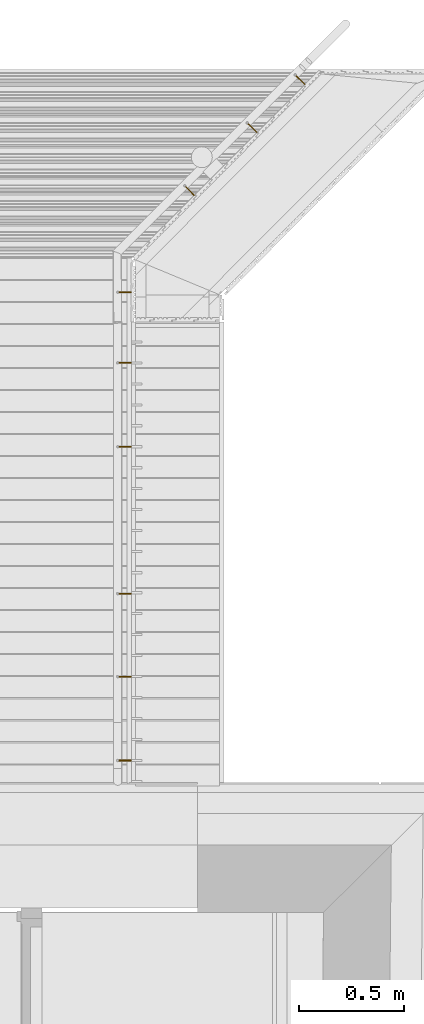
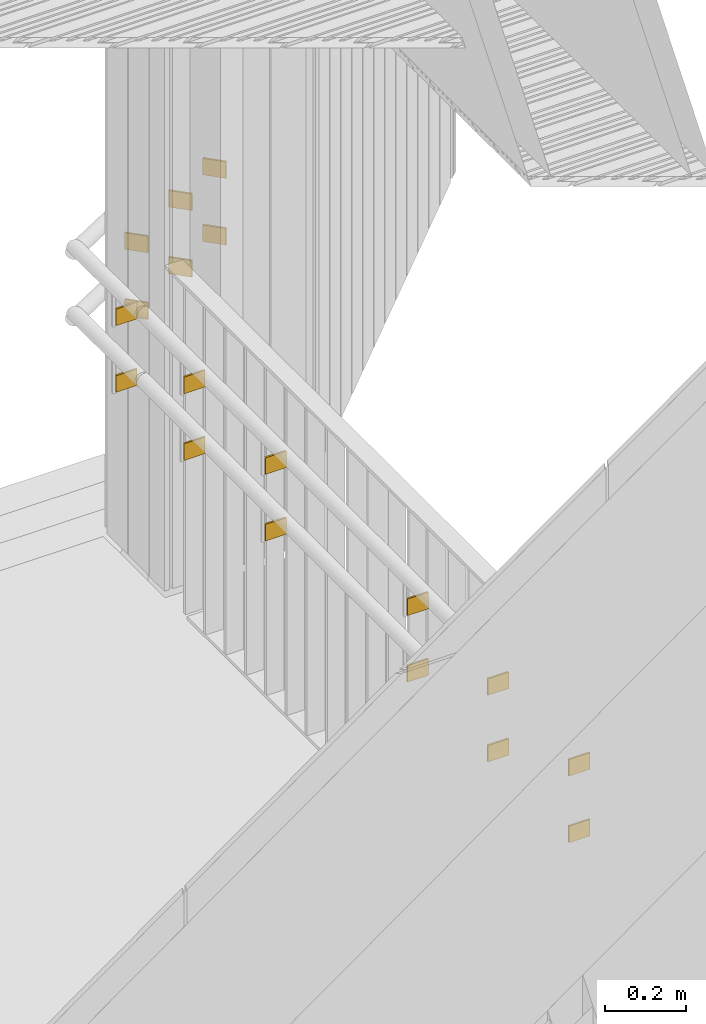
# One storey, part 168 of 418: 18 railings.
"""IFC2X3 building model written with IfcOpenShell, lengths in millimetres."""

from ifc_helpers import new_model, entity, si_unit, converted_unit, derived_unit, money_unit, direction, frame, origin_with_axes, place, context, subcontext, project, spatial, polyline, outline, extrude, material, type_object, element, save


model = new_model("IFC2X3")

# Units and contexts
model_context = context("Model", 3, precision=0.01, world=origin_with_axes(), true_north=direction((0.0, 1.0)))
body_context = subcontext(model_context, "Body", "Model", "MODEL_VIEW")
ifc_project = project(units=[si_unit("LENGTHUNIT", "METRE", prefix="MILLI"), si_unit("AREAUNIT", "SQUARE_METRE"), si_unit("VOLUMEUNIT", "CUBIC_METRE"), converted_unit("PLANEANGLEUNIT", "DEGREE", entity("IfcPlaneAngleMeasure", 0.0174532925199), si_unit("PLANEANGLEUNIT", "RADIAN"), dimensions=[0, 0, 0, 0, 0, 0, 0]), si_unit("SOLIDANGLEUNIT", "STERADIAN"), money_unit("EUR"), converted_unit("TIMEUNIT", "Year", entity("IfcTimeMeasure", 31556926.0), si_unit("TIMEUNIT", "SECOND"), dimensions=[0, 0, 1, 0, 0, 0, 0]), si_unit("MASSUNIT", "GRAM", prefix="KILO"), si_unit("THERMODYNAMICTEMPERATUREUNIT", "DEGREE_CELSIUS"), si_unit("LUMINOUSINTENSITYUNIT", "LUMEN"), si_unit("ENERGYUNIT", "JOULE", prefix="MEGA"), derived_unit("THERMALCONDUCTANCEUNIT", [(si_unit("POWERUNIT", "WATT"), 1), (si_unit("LENGTHUNIT", "METRE"), -1), (si_unit("THERMODYNAMICTEMPERATUREUNIT", "KELVIN"), -1)]), derived_unit("SPECIFICHEATCAPACITYUNIT", [(si_unit("ENERGYUNIT", "JOULE"), 1), (si_unit("MASSUNIT", "GRAM", prefix="KILO"), -1), (si_unit("THERMODYNAMICTEMPERATUREUNIT", "KELVIN"), -1)]), derived_unit("MASSDENSITYUNIT", [(si_unit("MASSUNIT", "GRAM", prefix="KILO"), 1), (si_unit("VOLUMEUNIT", "CUBIC_METRE"), -1)])], contexts=[model_context])

# Site, building, storey
site_placement = place(None, origin_with_axes())
site = spatial("IfcSite", under=ifc_project, at=site_placement, Name="Paldiski mnt 245/1, Tallinn, Harjumaa", CompositionType="COMPLEX")
building_placement = place(site_placement, origin_with_axes())
building = spatial("IfcBuilding", under=site, at=building_placement, Name="RKAS Hoone üldnimetus (kasutust iseloomustav) -> IFC Project Manager -> SOLIBRI", CompositionType="ELEMENT")
storey_placement = place(building_placement, origin_with_axes())
storey = spatial("IfcBuildingStorey", under=building, at=storey_placement, Name="Esimene korrus", CompositionType="ELEMENT", Elevation=0.0)

# Railings
ifc_material = material(Name="RAL7016")
railing_type = type_object("IfcRailingType", Name="RAL7016 50", PredefinedType="NOTDEFINED")
railing_1_placement = place(storey_placement, frame((-47648.0713494, 39486.0946052, 438.309110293), z_axis=(0.0, 0.0, 1.0), x_axis=(1.0, 0.0, 0.0)))
element("IfcRailing", 1, at=railing_1_placement, inside=storey, type_object=railing_type, material=ifc_material, Name="Trepiire", PredefinedType="NOTDEFINED", context=body_context, shape_type="SweptSolid", body=[
    extrude(outline(polyline([(0.0, 0.0), (3.53553390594, 3.53553390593), (-38.8908729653, 45.9619407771), (-42.4264068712, 42.4264068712), (0.0, 0.0)])), frame((0.0, 0.0, -50.0), z_axis=(0.0, 0.0, 1.0), x_axis=(1.0, 0.0, 0.0)), (0.0, 0.0, 1.0), 50.0),
])
railing_2_placement = place(storey_placement, frame((-48245.2840938, 37287.1479436, 783.9765826), z_axis=(0.0, 0.0, 1.0), x_axis=(1.0, 0.0, 0.0)))
element("IfcRailing", 2, at=railing_2_placement, inside=storey, type_object=railing_type, material=ifc_material, Name="Trepiire", PredefinedType="NOTDEFINED", context=body_context, shape_type="SweptSolid", body=[
    extrude(outline(polyline([(0.0, 0.0), (0.0, 4.99999999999), (-60.0, 4.99999999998), (-60.0, 0.0), (0.0, 0.0)])), frame((0.0, 0.0, -50.0), z_axis=(0.0, 0.0, 1.0), x_axis=(1.0, 0.0, 0.0)), (0.0, 0.0, 1.0), 50.0),
])
railing_3_placement = place(storey_placement, frame((-48244.569123, 38723.80061, 784.253857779), z_axis=(0.0, 0.0, 1.0), x_axis=(1.0, 0.0, 0.0)))
element("IfcRailing", 3, at=railing_3_placement, inside=storey, type_object=railing_type, material=ifc_material, Name="Trepiire", PredefinedType="NOTDEFINED", context=body_context, shape_type="SweptSolid", body=[
    extrude(outline(polyline([(0.0, 0.0), (1.26952670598e-07, 4.99999999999), (-59.999999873, 5.00000152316), (-60.0, 1.52316914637e-06), (0.0, 0.0)])), frame((0.0, 0.0, -50.0), z_axis=(0.0, 0.0, 1.0), x_axis=(1.0, 0.0, 0.0)), (0.0, 0.0, 1.0), 50.0),
])
railing_4_placement = place(storey_placement, frame((-48245.2840938, 36891.1479436, 783.9765826), z_axis=(0.0, 0.0, 1.0), x_axis=(1.0, 0.0, 0.0)))
element("IfcRailing", 4, at=railing_4_placement, inside=storey, type_object=railing_type, material=ifc_material, Name="Trepiire", PredefinedType="NOTDEFINED", context=body_context, shape_type="SweptSolid", body=[
    extrude(outline(polyline([(0.0, 0.0), (0.0, 4.99999999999), (-60.0, 4.99999999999), (-60.0, 0.0), (0.0, 0.0)])), frame((0.0, 0.0, -50.0), z_axis=(0.0, 0.0, 1.0), x_axis=(1.0, 0.0, 0.0)), (0.0, 0.0, 1.0), 50.0),
])
railing_5_placement = place(storey_placement, frame((-48245.2840938, 36491.1479436, 583.554682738), z_axis=(0.0, 0.0, 1.0), x_axis=(1.0, 0.0, 0.0)))
element("IfcRailing", 5, at=railing_5_placement, inside=storey, type_object=railing_type, material=ifc_material, Name="Trepiire", PredefinedType="NOTDEFINED", context=body_context, shape_type="SweptSolid", body=[
    extrude(outline(polyline([(0.0, 0.0), (0.0, 5.0), (-60.0, 4.99999999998), (-60.0, 0.0), (0.0, 0.0)])), frame((0.0, 0.0, -50.0), z_axis=(0.0, 0.0, 1.0), x_axis=(1.0, 0.0, 0.0)), (0.0, 0.0, 1.0), 50.0),
])
railing_6_placement = place(storey_placement, frame((-47648.0713494, 39486.0946052, 237.887210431), z_axis=(0.0, 0.0, 1.0), x_axis=(1.0, 0.0, 0.0)))
element("IfcRailing", 6, at=railing_6_placement, inside=storey, type_object=railing_type, material=ifc_material, Name="Trepiire", PredefinedType="NOTDEFINED", context=body_context, shape_type="SweptSolid", body=[
    extrude(outline(polyline([(0.0, 0.0), (3.53553390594, 3.53553390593), (-38.8908729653, 45.9619407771), (-42.4264068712, 42.4264068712), (0.0, 0.0)])), frame((0.0, 0.0, -50.0), z_axis=(0.0, 0.0, 1.0), x_axis=(1.0, 0.0, 0.0)), (0.0, 0.0, 1.0), 50.0),
])
for number, where, z_axis, x_axis in (
    (7, (-47419.3317687, 39714.8341859, 115.85338438), (0.0, 0.0, 1.0), (1.0, 0.0, 0.0)),
    (8, (-47419.3317687, 39714.8341859, 316.275284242), (0.0, 0.0, 1.0), (1.0, 0.0, 0.0)),
):
    element("IfcRailing", number, at=place(storey_placement, frame(where, z_axis=z_axis, x_axis=x_axis)), inside=storey, type_object=railing_type, material=ifc_material, Name="Trepiire", PredefinedType="NOTDEFINED", context=body_context, shape_type="SweptSolid", body=[
        extrude(outline(polyline([(0.0, 0.0), (3.53553390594, 3.53553390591), (-38.8908729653, 45.9619407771), (-42.4264068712, 42.4264068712), (0.0, 0.0)])), frame((0.0, 0.0, -50.0), z_axis=(0.0, 0.0, 1.0), x_axis=(1.0, 0.0, 0.0)), (0.0, 0.0, 1.0), 50.0),
    ])
railing_7_placement = place(storey_placement, frame((-48244.569123, 38723.80061, 583.831957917), z_axis=(0.0, 0.0, 1.0), x_axis=(1.0, 0.0, 0.0)))
element("IfcRailing", 9, at=railing_7_placement, inside=storey, type_object=railing_type, material=ifc_material, Name="Trepiire", PredefinedType="NOTDEFINED", context=body_context, shape_type="SweptSolid", body=[
    extrude(outline(polyline([(0.0, 0.0), (1.26952670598e-07, 4.99999999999), (-59.999999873, 5.00000152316), (-60.0, 1.52316914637e-06), (0.0, 0.0)])), frame((0.0, 0.0, -50.0), z_axis=(0.0, 0.0, 1.0), x_axis=(1.0, 0.0, 0.0)), (0.0, 0.0, 1.0), 50.0),
])
for number, where, z_axis, x_axis in (
    (10, (-47946.5004498, 39186.2098183, 597.535226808), (0.0, 0.0, 1.0), (1.0, 0.0, 0.0)),
    (11, (-47946.5004498, 39186.2098183, 397.113326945), (0.0, 0.0, 1.0), (1.0, 0.0, 0.0)),
):
    element("IfcRailing", number, at=place(storey_placement, frame(where, z_axis=z_axis, x_axis=x_axis)), inside=storey, type_object=railing_type, material=ifc_material, Name="Trepiire", PredefinedType="NOTDEFINED", context=body_context, shape_type="SweptSolid", body=[
        extrude(outline(polyline([(0.0, 0.0), (3.53553390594, 3.53553390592), (-38.8908729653, 45.9619407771), (-42.4264068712, 42.4264068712), (0.0, 0.0)])), frame((0.0, 0.0, -50.0), z_axis=(0.0, 0.0, 1.0), x_axis=(1.0, 0.0, 0.0)), (0.0, 0.0, 1.0), 50.0),
    ])
for number, where, z_axis, x_axis in (
    (12, (-48245.2840938, 38387.1479436, 583.554682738), (0.0, 0.0, 1.0), (1.0, 0.0, 0.0)),
    (13, (-48245.2840938, 37987.1479436, 583.554682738), (0.0, 0.0, 1.0), (1.0, 0.0, 0.0)),
):
    element("IfcRailing", number, at=place(storey_placement, frame(where, z_axis=z_axis, x_axis=x_axis)), inside=storey, type_object=railing_type, material=ifc_material, Name="Trepiire", PredefinedType="NOTDEFINED", context=body_context, shape_type="SweptSolid", body=[
        extrude(outline(polyline([(0.0, 0.0), (0.0, 5.0), (-60.0, 4.99999999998), (-60.0, 0.0), (0.0, 0.0)])), frame((0.0, 0.0, -50.0), z_axis=(0.0, 0.0, 1.0), x_axis=(1.0, 0.0, 0.0)), (0.0, 0.0, 1.0), 50.0),
    ])
railing_8_placement = place(storey_placement, frame((-48245.2840938, 37287.1479436, 583.554682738), z_axis=(0.0, 0.0, 1.0), x_axis=(1.0, 0.0, 0.0)))
element("IfcRailing", 14, at=railing_8_placement, inside=storey, type_object=railing_type, material=ifc_material, Name="Trepiire", PredefinedType="NOTDEFINED", context=body_context, shape_type="SweptSolid", body=[
    extrude(outline(polyline([(0.0, 0.0), (0.0, 4.99999999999), (-60.0, 4.99999999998), (-60.0, 0.0), (0.0, 0.0)])), frame((0.0, 0.0, -50.0), z_axis=(0.0, 0.0, 1.0), x_axis=(1.0, 0.0, 0.0)), (0.0, 0.0, 1.0), 50.0),
])
railing_9_placement = place(storey_placement, frame((-48245.2840938, 36891.1479436, 583.554682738), z_axis=(0.0, 0.0, 1.0), x_axis=(1.0, 0.0, 0.0)))
element("IfcRailing", 15, at=railing_9_placement, inside=storey, type_object=railing_type, material=ifc_material, Name="Trepiire", PredefinedType="NOTDEFINED", context=body_context, shape_type="SweptSolid", body=[
    extrude(outline(polyline([(0.0, 0.0), (0.0, 4.99999999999), (-60.0, 4.99999999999), (-60.0, 0.0), (0.0, 0.0)])), frame((0.0, 0.0, -50.0), z_axis=(0.0, 0.0, 1.0), x_axis=(1.0, 0.0, 0.0)), (0.0, 0.0, 1.0), 50.0),
])
for number, where, z_axis, x_axis in (
    (16, (-48245.2840938, 36491.1479436, 783.9765826), (0.0, 0.0, 1.0), (1.0, 0.0, 0.0)),
    (17, (-48245.2840938, 38387.1479436, 783.9765826), (0.0, 0.0, 1.0), (1.0, 0.0, 0.0)),
    (18, (-48245.2840938, 37987.1479436, 783.9765826), (0.0, 0.0, 1.0), (1.0, 0.0, 0.0)),
):
    element("IfcRailing", number, at=place(storey_placement, frame(where, z_axis=z_axis, x_axis=x_axis)), inside=storey, type_object=railing_type, material=ifc_material, Name="Trepiire", PredefinedType="NOTDEFINED", context=body_context, shape_type="SweptSolid", body=[
        extrude(outline(polyline([(0.0, 0.0), (0.0, 5.0), (-60.0, 4.99999999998), (-60.0, 0.0), (0.0, 0.0)])), frame((0.0, 0.0, -50.0), z_axis=(0.0, 0.0, 1.0), x_axis=(1.0, 0.0, 0.0)), (0.0, 0.0, 1.0), 50.0),
    ])

save(model, "model.ifc")
